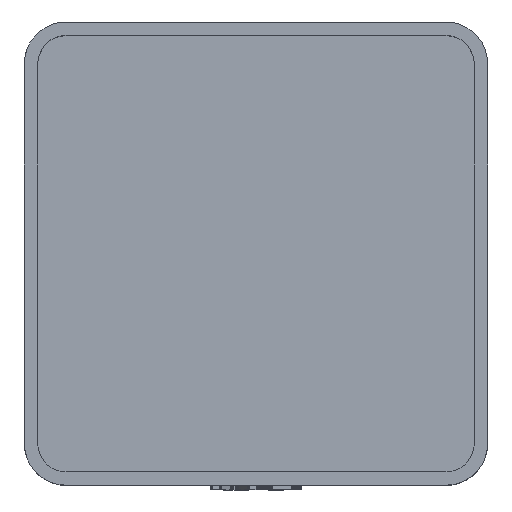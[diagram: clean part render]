
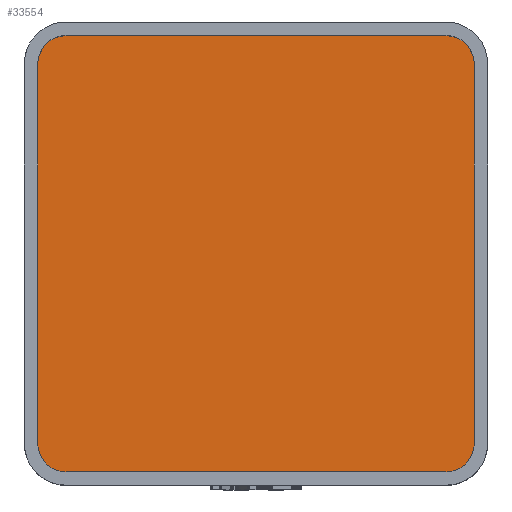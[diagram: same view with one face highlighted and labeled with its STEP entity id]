
A CAD part, top view. The second image highlights one B-rep face of the part: STEP entity #33554.
In plain terms, the highlighted planar face has unit normal (0, 0, 1).
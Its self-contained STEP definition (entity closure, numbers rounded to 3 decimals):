
#1442 = PLANE('',#1443);
#1443 = AXIS2_PLACEMENT_3D('',#1444,#1445,#1446);
#1444 = CARTESIAN_POINT('',(-19.55,-17.,4.75));
#1445 = DIRECTION('',(-1.,0.,0.));
#1446 = DIRECTION('',(0.,1.,0.));
#1474 = CYLINDRICAL_SURFACE('',#1475,2.55);
#1475 = AXIS2_PLACEMENT_3D('',#1476,#1477,#1478);
#1476 = CARTESIAN_POINT('',(-17.,17.,4.75));
#1477 = DIRECTION('',(-0.,-0.,-1.));
#1478 = DIRECTION('',(1.,0.,0.));
#1501 = PLANE('',#1502);
#1502 = AXIS2_PLACEMENT_3D('',#1503,#1504,#1505);
#1503 = CARTESIAN_POINT('',(-17.,19.55,4.75));
#1504 = DIRECTION('',(0.,1.,0.));
#1505 = DIRECTION('',(1.,0.,0.));
#1533 = CYLINDRICAL_SURFACE('',#1534,2.55);
#1534 = AXIS2_PLACEMENT_3D('',#1535,#1536,#1537);
#1535 = CARTESIAN_POINT('',(17.,17.,4.75));
#1536 = DIRECTION('',(-0.,-0.,-1.));
#1537 = DIRECTION('',(1.,0.,0.));
#1560 = PLANE('',#1561);
#1561 = AXIS2_PLACEMENT_3D('',#1562,#1563,#1564);
#1562 = CARTESIAN_POINT('',(19.55,-17.,4.75));
#1563 = DIRECTION('',(-1.,0.,0.));
#1564 = DIRECTION('',(0.,1.,0.));
#1592 = CYLINDRICAL_SURFACE('',#1593,2.55);
#1593 = AXIS2_PLACEMENT_3D('',#1594,#1595,#1596);
#1594 = CARTESIAN_POINT('',(17.,-17.,4.75));
#1595 = DIRECTION('',(-0.,-0.,-1.));
#1596 = DIRECTION('',(1.,0.,0.));
#1619 = PLANE('',#1620);
#1620 = AXIS2_PLACEMENT_3D('',#1621,#1622,#1623);
#1621 = CARTESIAN_POINT('',(-17.,-19.55,4.75));
#1622 = DIRECTION('',(0.,1.,0.));
#1623 = DIRECTION('',(1.,0.,0.));
#1649 = CYLINDRICAL_SURFACE('',#1650,2.55);
#1650 = AXIS2_PLACEMENT_3D('',#1651,#1652,#1653);
#1651 = CARTESIAN_POINT('',(-17.,-17.,4.75));
#1652 = DIRECTION('',(-0.,-0.,-1.));
#1653 = DIRECTION('',(1.,0.,0.));
#12655 = EDGE_CURVE('',#12656,#12658,#12660,.T.);
#12656 = VERTEX_POINT('',#12657);
#12657 = CARTESIAN_POINT('',(-19.55,-17.,4.75));
#12658 = VERTEX_POINT('',#12659);
#12659 = CARTESIAN_POINT('',(-19.55,17.,4.75));
#12660 = SURFACE_CURVE('',#12661,(#12665,#12672),.PCURVE_S1.);
#12661 = LINE('',#12662,#12663);
#12662 = CARTESIAN_POINT('',(-19.55,0.,4.75));
#12663 = VECTOR('',#12664,1.);
#12664 = DIRECTION('',(0.,1.,0.));
#12665 = PCURVE('',#1442,#12666);
#12666 = DEFINITIONAL_REPRESENTATION('',(#12667),#12671);
#12667 = LINE('',#12668,#12669);
#12668 = CARTESIAN_POINT('',(17.,0.));
#12669 = VECTOR('',#12670,1.);
#12670 = DIRECTION('',(1.,0.));
#12671 = ( GEOMETRIC_REPRESENTATION_CONTEXT(2) 
PARAMETRIC_REPRESENTATION_CONTEXT() REPRESENTATION_CONTEXT('2D SPACE',''
  ) );
#12672 = PCURVE('',#12673,#12678);
#12673 = PLANE('',#12674);
#12674 = AXIS2_PLACEMENT_3D('',#12675,#12676,#12677);
#12675 = CARTESIAN_POINT('',(0.,0.,4.75
    ));
#12676 = DIRECTION('',(0.,0.,1.));
#12677 = DIRECTION('',(1.,0.,-0.));
#12678 = DEFINITIONAL_REPRESENTATION('',(#12679),#12683);
#12679 = LINE('',#12680,#12681);
#12680 = CARTESIAN_POINT('',(-19.55,0.));
#12681 = VECTOR('',#12682,1.);
#12682 = DIRECTION('',(0.,1.));
#12683 = ( GEOMETRIC_REPRESENTATION_CONTEXT(2) 
PARAMETRIC_REPRESENTATION_CONTEXT() REPRESENTATION_CONTEXT('2D SPACE',''
  ) );
#12731 = EDGE_CURVE('',#12656,#12732,#12734,.T.);
#12732 = VERTEX_POINT('',#12733);
#12733 = CARTESIAN_POINT('',(-17.,-19.55,4.75));
#12734 = SURFACE_CURVE('',#12735,(#12740,#12747),.PCURVE_S1.);
#12735 = CIRCLE('',#12736,2.55);
#12736 = AXIS2_PLACEMENT_3D('',#12737,#12738,#12739);
#12737 = CARTESIAN_POINT('',(-17.,-17.,4.75));
#12738 = DIRECTION('',(0.,0.,1.));
#12739 = DIRECTION('',(1.,0.,0.));
#12740 = PCURVE('',#1649,#12741);
#12741 = DEFINITIONAL_REPRESENTATION('',(#12742),#12746);
#12742 = LINE('',#12743,#12744);
#12743 = CARTESIAN_POINT('',(-0.,0.));
#12744 = VECTOR('',#12745,1.);
#12745 = DIRECTION('',(-1.,0.));
#12746 = ( GEOMETRIC_REPRESENTATION_CONTEXT(2) 
PARAMETRIC_REPRESENTATION_CONTEXT() REPRESENTATION_CONTEXT('2D SPACE',''
  ) );
#12747 = PCURVE('',#12673,#12748);
#12748 = DEFINITIONAL_REPRESENTATION('',(#12749),#12753);
#12749 = CIRCLE('',#12750,2.55);
#12750 = AXIS2_PLACEMENT_2D('',#12751,#12752);
#12751 = CARTESIAN_POINT('',(-17.,-17.));
#12752 = DIRECTION('',(1.,0.));
#12753 = ( GEOMETRIC_REPRESENTATION_CONTEXT(2) 
PARAMETRIC_REPRESENTATION_CONTEXT() REPRESENTATION_CONTEXT('2D SPACE',''
  ) );
#12781 = EDGE_CURVE('',#12732,#12782,#12784,.T.);
#12782 = VERTEX_POINT('',#12783);
#12783 = CARTESIAN_POINT('',(17.,-19.55,4.75));
#12784 = SURFACE_CURVE('',#12785,(#12789,#12796),.PCURVE_S1.);
#12785 = LINE('',#12786,#12787);
#12786 = CARTESIAN_POINT('',(0.,-19.55,4.75));
#12787 = VECTOR('',#12788,1.);
#12788 = DIRECTION('',(1.,0.,0.));
#12789 = PCURVE('',#1619,#12790);
#12790 = DEFINITIONAL_REPRESENTATION('',(#12791),#12795);
#12791 = LINE('',#12792,#12793);
#12792 = CARTESIAN_POINT('',(17.,0.));
#12793 = VECTOR('',#12794,1.);
#12794 = DIRECTION('',(1.,0.));
#12795 = ( GEOMETRIC_REPRESENTATION_CONTEXT(2) 
PARAMETRIC_REPRESENTATION_CONTEXT() REPRESENTATION_CONTEXT('2D SPACE',''
  ) );
#12796 = PCURVE('',#12673,#12797);
#12797 = DEFINITIONAL_REPRESENTATION('',(#12798),#12802);
#12798 = LINE('',#12799,#12800);
#12799 = CARTESIAN_POINT('',(0.,-19.55));
#12800 = VECTOR('',#12801,1.);
#12801 = DIRECTION('',(1.,0.));
#12802 = ( GEOMETRIC_REPRESENTATION_CONTEXT(2) 
PARAMETRIC_REPRESENTATION_CONTEXT() REPRESENTATION_CONTEXT('2D SPACE',''
  ) );
#12830 = EDGE_CURVE('',#12782,#12831,#12833,.T.);
#12831 = VERTEX_POINT('',#12832);
#12832 = CARTESIAN_POINT('',(19.55,-17.,4.75));
#12833 = SURFACE_CURVE('',#12834,(#12839,#12846),.PCURVE_S1.);
#12834 = CIRCLE('',#12835,2.55);
#12835 = AXIS2_PLACEMENT_3D('',#12836,#12837,#12838);
#12836 = CARTESIAN_POINT('',(17.,-17.,4.75));
#12837 = DIRECTION('',(0.,0.,1.));
#12838 = DIRECTION('',(1.,0.,0.));
#12839 = PCURVE('',#1592,#12840);
#12840 = DEFINITIONAL_REPRESENTATION('',(#12841),#12845);
#12841 = LINE('',#12842,#12843);
#12842 = CARTESIAN_POINT('',(-0.,0.));
#12843 = VECTOR('',#12844,1.);
#12844 = DIRECTION('',(-1.,0.));
#12845 = ( GEOMETRIC_REPRESENTATION_CONTEXT(2) 
PARAMETRIC_REPRESENTATION_CONTEXT() REPRESENTATION_CONTEXT('2D SPACE',''
  ) );
#12846 = PCURVE('',#12673,#12847);
#12847 = DEFINITIONAL_REPRESENTATION('',(#12848),#12852);
#12848 = CIRCLE('',#12849,2.55);
#12849 = AXIS2_PLACEMENT_2D('',#12850,#12851);
#12850 = CARTESIAN_POINT('',(17.,-17.));
#12851 = DIRECTION('',(1.,0.));
#12852 = ( GEOMETRIC_REPRESENTATION_CONTEXT(2) 
PARAMETRIC_REPRESENTATION_CONTEXT() REPRESENTATION_CONTEXT('2D SPACE',''
  ) );
#12880 = EDGE_CURVE('',#12831,#12881,#12883,.T.);
#12881 = VERTEX_POINT('',#12882);
#12882 = CARTESIAN_POINT('',(19.55,17.,4.75));
#12883 = SURFACE_CURVE('',#12884,(#12888,#12895),.PCURVE_S1.);
#12884 = LINE('',#12885,#12886);
#12885 = CARTESIAN_POINT('',(19.55,0.,4.75));
#12886 = VECTOR('',#12887,1.);
#12887 = DIRECTION('',(0.,1.,0.));
#12888 = PCURVE('',#1560,#12889);
#12889 = DEFINITIONAL_REPRESENTATION('',(#12890),#12894);
#12890 = LINE('',#12891,#12892);
#12891 = CARTESIAN_POINT('',(17.,0.));
#12892 = VECTOR('',#12893,1.);
#12893 = DIRECTION('',(1.,0.));
#12894 = ( GEOMETRIC_REPRESENTATION_CONTEXT(2) 
PARAMETRIC_REPRESENTATION_CONTEXT() REPRESENTATION_CONTEXT('2D SPACE',''
  ) );
#12895 = PCURVE('',#12673,#12896);
#12896 = DEFINITIONAL_REPRESENTATION('',(#12897),#12901);
#12897 = LINE('',#12898,#12899);
#12898 = CARTESIAN_POINT('',(19.55,0.));
#12899 = VECTOR('',#12900,1.);
#12900 = DIRECTION('',(0.,1.));
#12901 = ( GEOMETRIC_REPRESENTATION_CONTEXT(2) 
PARAMETRIC_REPRESENTATION_CONTEXT() REPRESENTATION_CONTEXT('2D SPACE',''
  ) );
#12929 = EDGE_CURVE('',#12881,#12930,#12932,.T.);
#12930 = VERTEX_POINT('',#12931);
#12931 = CARTESIAN_POINT('',(17.,19.55,4.75));
#12932 = SURFACE_CURVE('',#12933,(#12938,#12945),.PCURVE_S1.);
#12933 = CIRCLE('',#12934,2.55);
#12934 = AXIS2_PLACEMENT_3D('',#12935,#12936,#12937);
#12935 = CARTESIAN_POINT('',(17.,17.,4.75));
#12936 = DIRECTION('',(0.,0.,1.));
#12937 = DIRECTION('',(1.,0.,0.));
#12938 = PCURVE('',#1533,#12939);
#12939 = DEFINITIONAL_REPRESENTATION('',(#12940),#12944);
#12940 = LINE('',#12941,#12942);
#12941 = CARTESIAN_POINT('',(-0.,0.));
#12942 = VECTOR('',#12943,1.);
#12943 = DIRECTION('',(-1.,0.));
#12944 = ( GEOMETRIC_REPRESENTATION_CONTEXT(2) 
PARAMETRIC_REPRESENTATION_CONTEXT() REPRESENTATION_CONTEXT('2D SPACE',''
  ) );
#12945 = PCURVE('',#12673,#12946);
#12946 = DEFINITIONAL_REPRESENTATION('',(#12947),#12951);
#12947 = CIRCLE('',#12948,2.55);
#12948 = AXIS2_PLACEMENT_2D('',#12949,#12950);
#12949 = CARTESIAN_POINT('',(17.,17.));
#12950 = DIRECTION('',(1.,0.));
#12951 = ( GEOMETRIC_REPRESENTATION_CONTEXT(2) 
PARAMETRIC_REPRESENTATION_CONTEXT() REPRESENTATION_CONTEXT('2D SPACE',''
  ) );
#12979 = EDGE_CURVE('',#12980,#12930,#12982,.T.);
#12980 = VERTEX_POINT('',#12981);
#12981 = CARTESIAN_POINT('',(-17.,19.55,4.75));
#12982 = SURFACE_CURVE('',#12983,(#12987,#12994),.PCURVE_S1.);
#12983 = LINE('',#12984,#12985);
#12984 = CARTESIAN_POINT('',(0.,19.55,4.75));
#12985 = VECTOR('',#12986,1.);
#12986 = DIRECTION('',(1.,0.,0.));
#12987 = PCURVE('',#1501,#12988);
#12988 = DEFINITIONAL_REPRESENTATION('',(#12989),#12993);
#12989 = LINE('',#12990,#12991);
#12990 = CARTESIAN_POINT('',(17.,0.));
#12991 = VECTOR('',#12992,1.);
#12992 = DIRECTION('',(1.,0.));
#12993 = ( GEOMETRIC_REPRESENTATION_CONTEXT(2) 
PARAMETRIC_REPRESENTATION_CONTEXT() REPRESENTATION_CONTEXT('2D SPACE',''
  ) );
#12994 = PCURVE('',#12673,#12995);
#12995 = DEFINITIONAL_REPRESENTATION('',(#12996),#13000);
#12996 = LINE('',#12997,#12998);
#12997 = CARTESIAN_POINT('',(0.,19.55));
#12998 = VECTOR('',#12999,1.);
#12999 = DIRECTION('',(1.,0.));
#13000 = ( GEOMETRIC_REPRESENTATION_CONTEXT(2) 
PARAMETRIC_REPRESENTATION_CONTEXT() REPRESENTATION_CONTEXT('2D SPACE',''
  ) );
#13028 = EDGE_CURVE('',#12980,#12658,#13029,.T.);
#13029 = SURFACE_CURVE('',#13030,(#13035,#13042),.PCURVE_S1.);
#13030 = CIRCLE('',#13031,2.55);
#13031 = AXIS2_PLACEMENT_3D('',#13032,#13033,#13034);
#13032 = CARTESIAN_POINT('',(-17.,17.,4.75));
#13033 = DIRECTION('',(0.,0.,1.));
#13034 = DIRECTION('',(1.,0.,0.));
#13035 = PCURVE('',#1474,#13036);
#13036 = DEFINITIONAL_REPRESENTATION('',(#13037),#13041);
#13037 = LINE('',#13038,#13039);
#13038 = CARTESIAN_POINT('',(-0.,0.));
#13039 = VECTOR('',#13040,1.);
#13040 = DIRECTION('',(-1.,0.));
#13041 = ( GEOMETRIC_REPRESENTATION_CONTEXT(2) 
PARAMETRIC_REPRESENTATION_CONTEXT() REPRESENTATION_CONTEXT('2D SPACE',''
  ) );
#13042 = PCURVE('',#12673,#13043);
#13043 = DEFINITIONAL_REPRESENTATION('',(#13044),#13048);
#13044 = CIRCLE('',#13045,2.55);
#13045 = AXIS2_PLACEMENT_2D('',#13046,#13047);
#13046 = CARTESIAN_POINT('',(-17.,17.));
#13047 = DIRECTION('',(1.,0.));
#13048 = ( GEOMETRIC_REPRESENTATION_CONTEXT(2) 
PARAMETRIC_REPRESENTATION_CONTEXT() REPRESENTATION_CONTEXT('2D SPACE',''
  ) );
#33554 = ADVANCED_FACE('',(#33555),#12673,.T.);
#33555 = FACE_BOUND('',#33556,.T.);
#33556 = EDGE_LOOP('',(#33557,#33558,#33559,#33560,#33561,#33562,#33563,
    #33564));
#33557 = ORIENTED_EDGE('',*,*,#12655,.F.);
#33558 = ORIENTED_EDGE('',*,*,#12731,.T.);
#33559 = ORIENTED_EDGE('',*,*,#12781,.T.);
#33560 = ORIENTED_EDGE('',*,*,#12830,.T.);
#33561 = ORIENTED_EDGE('',*,*,#12880,.T.);
#33562 = ORIENTED_EDGE('',*,*,#12929,.T.);
#33563 = ORIENTED_EDGE('',*,*,#12979,.F.);
#33564 = ORIENTED_EDGE('',*,*,#13028,.T.);
